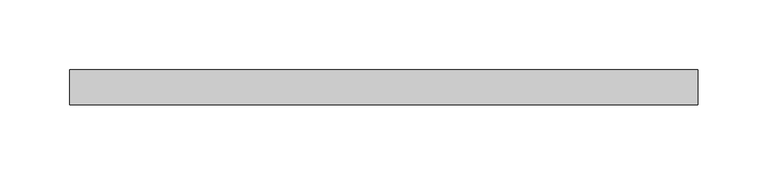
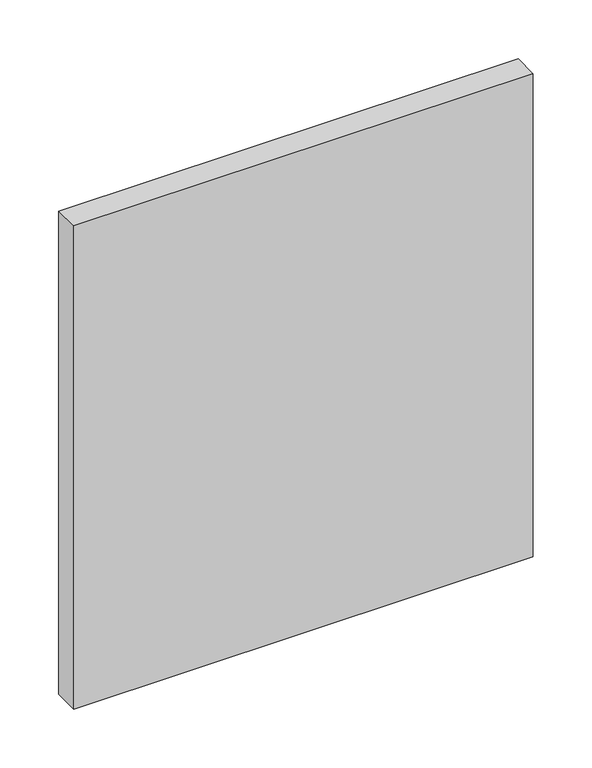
"""IFC4 building model written with IfcOpenShell, lengths in millimetres: plate geometry, Системная панель : С остеклением."""

from ifc_helpers import new_model, si_unit, origin, origin_with_axes, place, context, project, spatial, polyline, outline, extrude, source, transform, mapped, element, save


def plate_e0c8f2b3(model_context):
    return source(origin(), model_context, "Body", "SweptSolid", [
        extrude(outline(polyline([(225.0, 24.5), (-225.0, 24.5), (-225.0, 49.5), (225.0, 49.5), (225.0, 24.5)])), origin_with_axes(), (0.0, 0.0, 1.0), 500.0),
    ])


if __name__ == "__main__":
    model = new_model("IFC4")
    model_context = context("Model", 3, world=origin())
    ifc_project = project(units=[si_unit("LENGTHUNIT", "METRE", prefix="MILLI")], contexts=[model_context])
    site = spatial("IfcSite", under=ifc_project)
    building = spatial("IfcBuilding", under=site)
    placement = place(None, origin())
    plate_shape = plate_e0c8f2b3(model_context)
    element("IfcPlate", 1, ObjectType="Системная панель : С остеклением", at=placement, inside=building, context=model_context, shape_type="MappedRepresentation", body=[
        mapped(plate_shape, transform((0.0, 0.0, 0.0), x_axis=(1.0, 0.0, 0.0), y_axis=(0.0, 1.0, 0.0), z_axis=(0.0, 0.0, 1.0))),
    ])
    save(model, "model.ifc")
